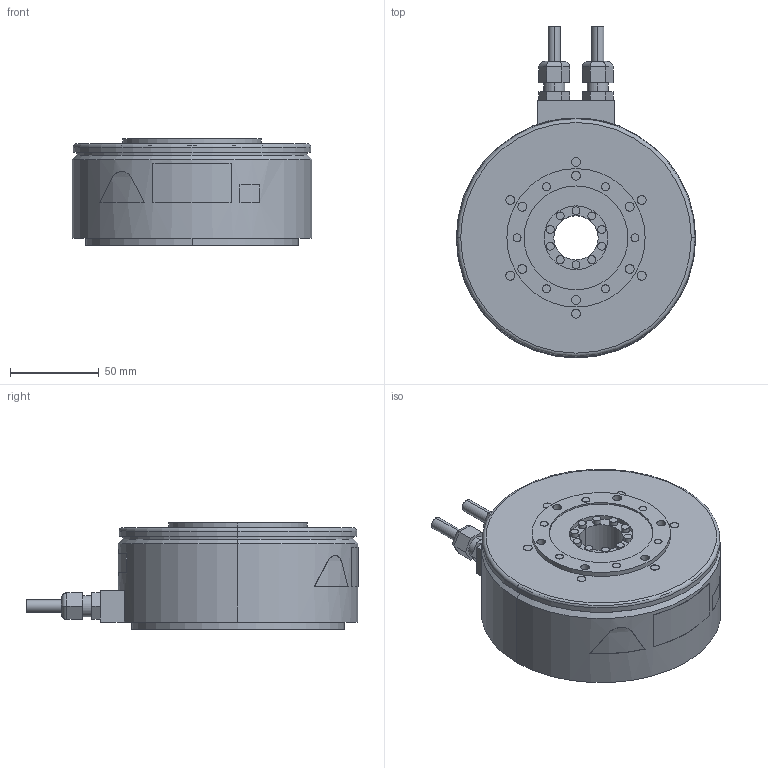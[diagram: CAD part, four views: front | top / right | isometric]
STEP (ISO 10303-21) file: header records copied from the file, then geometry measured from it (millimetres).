
FILE_DESCRIPTION (( 'STEP AP203' ), '1' );
FILE_NAME ('sgm7f_04b_a4_.STEP', '2016-07-24T06:26:48', ( '匠エンジニアリング山之内' ), ( 'TAKUMI-Engniaring' ), 'SwSTEP 2.0', 'SolidWorks 2006303', '' );
FILE_SCHEMA (( 'CONFIG_CONTROL_DESIGN' ));
Length unit declared in the file: millimetre
Products named in the file (1): sgm7f_04b_a4_
Bounding box: 135 x 187.2 x 60 mm (x, y, z)
Volume: 791836.1 mm3; surface area: 80828 mm2
Topology: 1 solids, 1 shells, 250 faces, 529 edges, 346 vertices
Faces by surface type: cylinder 137, plane 107, cone 4, torus 2
Entity records: 6932 total; most frequent: DIRECTION 1275, CARTESIAN_POINT 1234, ORIENTED_EDGE 1058, EDGE_CURVE 529, AXIS2_PLACEMENT_3D 513, VERTEX_POINT 346, EDGE_LOOP 317, CIRCLE 262
